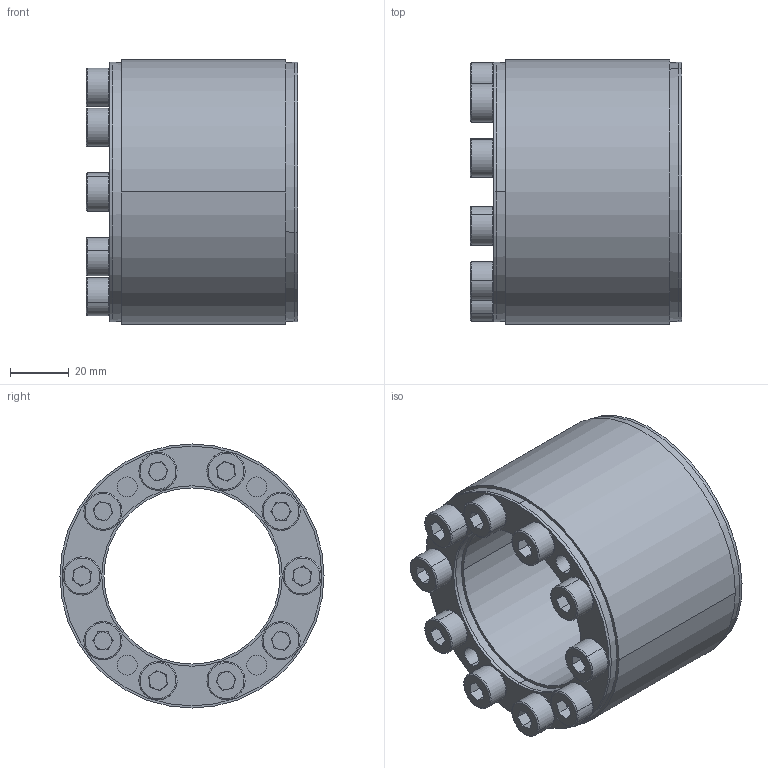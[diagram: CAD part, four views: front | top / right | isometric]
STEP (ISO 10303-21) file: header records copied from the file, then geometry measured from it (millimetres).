
FILE_DESCRIPTION (( 'STEP AP203' ), '1' );
FILE_NAME ('SAPL-D4-60-90.STEP', '2017-11-06T08:43:25', ( 'MYCOM' ), ( '' ), 'SwSTEP 2.0', 'SolidWorks 2015', '' );
FILE_SCHEMA (( 'CONFIG_CONTROL_DESIGN' ));
Length unit declared in the file: millimetre
Products named in the file (1): SAPL-D4-60-90
Bounding box: 72 x 90 x 90 mm (x, y, z)
Surface area: 56845 mm2 (no closed solid volume)
Topology: 0 solids, 24 shells, 256 faces, 664 edges, 416 vertices
Faces by surface type: plane 128, cylinder 80, torus 40, cone 8
Entity records: 7874 total; most frequent: DIRECTION 1514, CARTESIAN_POINT 1337, ORIENTED_EDGE 1150, EDGE_CURVE 664, AXIS2_PLACEMENT_3D 593, VERTEX_POINT 416, CIRCLE 336, LINE 328
